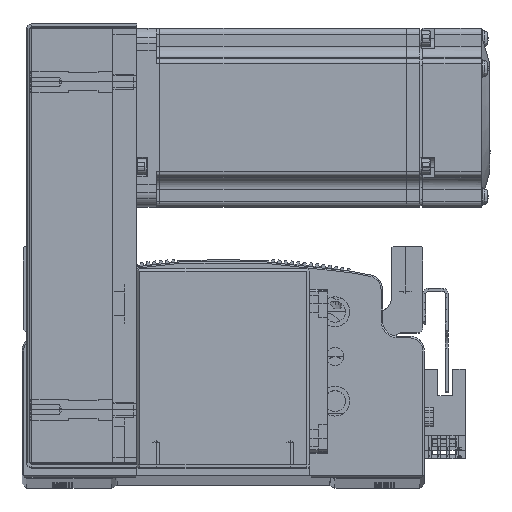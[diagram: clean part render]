
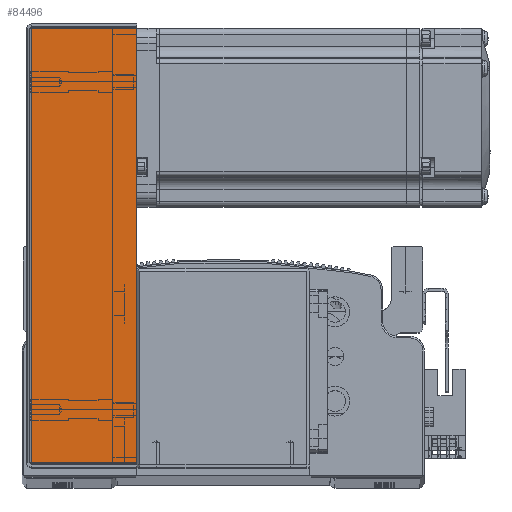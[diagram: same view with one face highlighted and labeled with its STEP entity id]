
A CAD part, top view. The second image highlights one B-rep face of the part: STEP entity #84496.
In plain terms, the highlighted planar face has unit normal (0, 0, 1).
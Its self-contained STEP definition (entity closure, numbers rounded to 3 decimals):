
#5 = CARTESIAN_POINT ( 'NONE',  ( -72.793, 36., 34.5 ) ) ;
#59 = CARTESIAN_POINT ( 'NONE',  ( -72.793, 0.737, 34.5 ) ) ;
#4123 = VERTEX_POINT ( 'NONE', #59 ) ;
#4177 = VERTEX_POINT ( 'NONE', #5 ) ;
#4209 = VERTEX_POINT ( 'NONE', #87898 ) ;
#4218 = VERTEX_POINT ( 'NONE', #87901 ) ;
#4484 = LINE ( 'NONE', #54305, #4521 ) ;
#4521 = VECTOR ( 'NONE', #54359, 1000. ) ;
#4540 = LINE ( 'NONE', #54649, #4560 ) ;
#4560 = VECTOR ( 'NONE', #54684, 1000. ) ;
#4684 = VECTOR ( 'NONE', #54914, 1000. ) ;
#4687 = VECTOR ( 'NONE', #54954, 1000. ) ;
#4688 = LINE ( 'NONE', #54958, #4684 ) ;
#4690 = LINE ( 'NONE', #54987, #4687 ) ;
#38744 = EDGE_CURVE ( 'NONE', #4218, #4177, #4484, .T. ) ;
#38786 = EDGE_CURVE ( 'NONE', #4209, #4123, #4540, .T. ) ;
#38838 = EDGE_CURVE ( 'NONE', #4209, #4218, #4690, .T. ) ;
#38844 = EDGE_CURVE ( 'NONE', #4123, #4177, #4688, .T. ) ;
#48676 = EDGE_LOOP ( 'NONE', ( #57903, #57806, #57795, #57861 ) ) ;
#54305 = CARTESIAN_POINT ( 'NONE',  ( 0., 36., 34.5 ) ) ;
#54359 = DIRECTION ( 'NONE',  ( -1., 0., 0. ) ) ;
#54649 = CARTESIAN_POINT ( 'NONE',  ( -74.5, 0.737, 34.5 ) ) ;
#54684 = DIRECTION ( 'NONE',  ( -1., 0., 0. ) ) ;
#54914 = DIRECTION ( 'NONE',  ( 0., 1., 0. ) ) ;
#54954 = DIRECTION ( 'NONE',  ( 0., 1., 0. ) ) ;
#54958 = CARTESIAN_POINT ( 'NONE',  ( -72.793, 0., 34.5 ) ) ;
#54987 = CARTESIAN_POINT ( 'NONE',  ( 72.793, 0., 34.5 ) ) ;
#57795 = ORIENTED_EDGE ( 'NONE', *, *, #38744, .T. ) ;
#57806 = ORIENTED_EDGE ( 'NONE', *, *, #38838, .T. ) ;
#57861 = ORIENTED_EDGE ( 'NONE', *, *, #38844, .F. ) ;
#57903 = ORIENTED_EDGE ( 'NONE', *, *, #38786, .F. ) ;
#62295 = FACE_OUTER_BOUND ( 'NONE', #48676, .T. ) ;
#65268 = AXIS2_PLACEMENT_3D ( 'NONE', #66074, #66111, #66076 ) ;
#66074 = CARTESIAN_POINT ( 'NONE',  ( 0., 0., 34.5 ) ) ;
#66076 = DIRECTION ( 'NONE',  ( -1., 0., 0. ) ) ;
#66100 = PLANE ( 'NONE',  #65268 ) ;
#66111 = DIRECTION ( 'NONE',  ( 0., 0., -1. ) ) ;
#84496 = ADVANCED_FACE ( 'NONE', ( #62295 ), #66100, .F. ) ;
#87898 = CARTESIAN_POINT ( 'NONE',  ( 72.793, 0.737, 34.5 ) ) ;
#87901 = CARTESIAN_POINT ( 'NONE',  ( 72.793, 36., 34.5 ) ) ;
